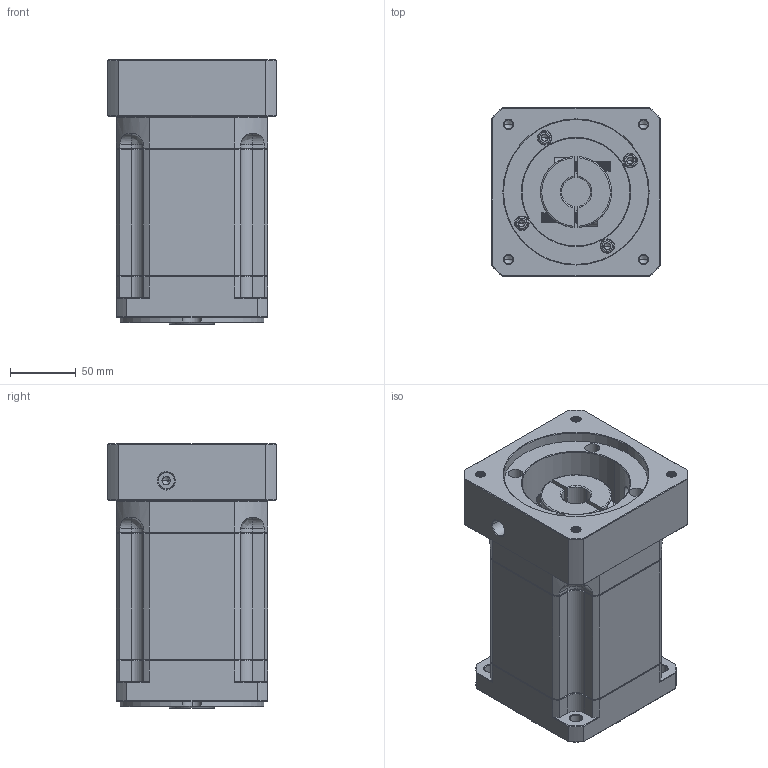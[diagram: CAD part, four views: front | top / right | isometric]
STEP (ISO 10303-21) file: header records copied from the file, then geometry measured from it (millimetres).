
FILE_DESCRIPTION (( 'STEP AP214' ), '1' );
FILE_NAME ('ZB115A-K25-L3-22-110-145-M8.step', '2023-03-02T09:06:00', ( '' ), ( 'Microsoft' ), 'SwSTEP 2.0', 'SolidWorks 2016', '' );
FILE_SCHEMA (( 'AUTOMOTIVE_DESIGN' ));
Length unit declared in the file: millimetre
Products named in the file (1): ZB115A-K25-L3-22-110-145-M8
Bounding box: 128 x 128 x 200.5 mm (x, y, z)
Volume: 2227436.3 mm3; surface area: 199991.8 mm2
Topology: 6 solids, 6 shells, 2058 faces, 5317 edges, 3353 vertices
Faces by surface type: plane 956, cylinder 406, cone 360, bspline 316, torus 20
Entity records: 107703 total; most frequent: CARTESIAN_POINT 37559, ORIENTED_EDGE 10570, DIRECTION 8715, EDGE_CURVE 5285, VERTEX_POINT 3353, LINE 3319, VECTOR 3319, AXIS2_PLACEMENT_3D 2698
